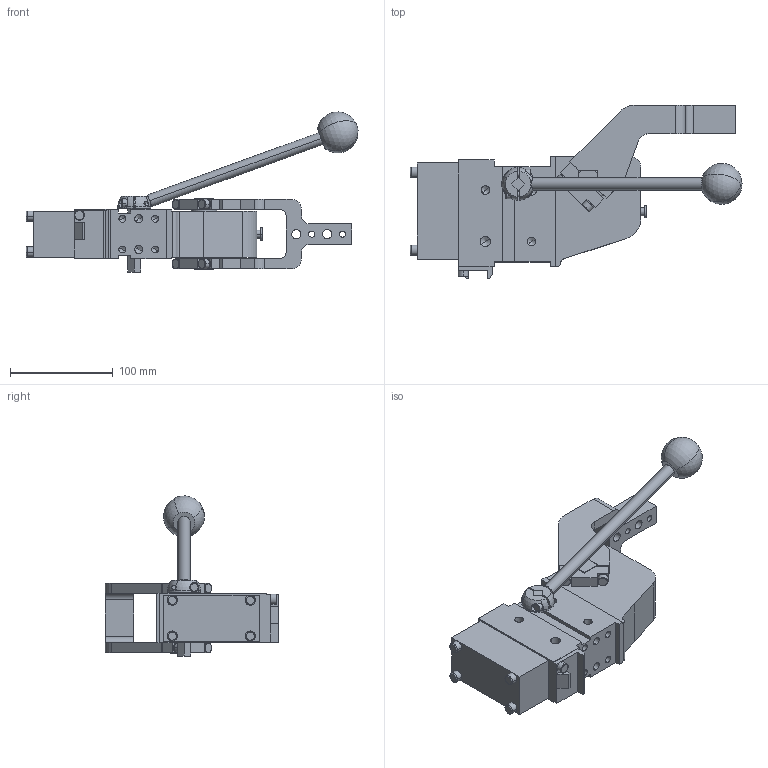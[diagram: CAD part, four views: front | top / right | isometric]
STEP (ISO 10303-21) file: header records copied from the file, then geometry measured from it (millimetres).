
FILE_DESCRIPTION(('CATIA V5 STEP Exchange'),'2;1');
FILE_NAME('G:\Konstruktion\Modelle\UPLOAD\MK2_50_1_A40_T00_TUENKERS.stp','2017-07-20T13:31:40+00:00',('none'),('none'),'CATIA Version 5 Release 19 SP 9 (IN-10)','CATIA V5 STEP AP214','none');
FILE_SCHEMA(('AUTOMOTIVE_DESIGN { 1 0 10303 214 1 1 1 1 }'));
Length unit declared in the file: millimetre
Products named in the file (1): MK2_50_1_A40_T00_TUENKERS
Bounding box: 323.64 x 169.5 x 156.11 mm (x, y, z)
Volume: 1149052.4 mm3; surface area: 140677.9 mm2
Topology: 5 solids, 10 shells, 427 faces, 1118 edges, 697 vertices
Faces by surface type: plane 179, cylinder 146, cone 66, torus 24, sphere 12
Entity records: 12981 total; most frequent: CARTESIAN_POINT 2325, ORIENTED_EDGE 2128, DIRECTION 1532, EDGE_CURVE 1064, VERTEX_POINT 697, AXIS2_PLACEMENT_3D 694, VECTOR 580, LINE 580
